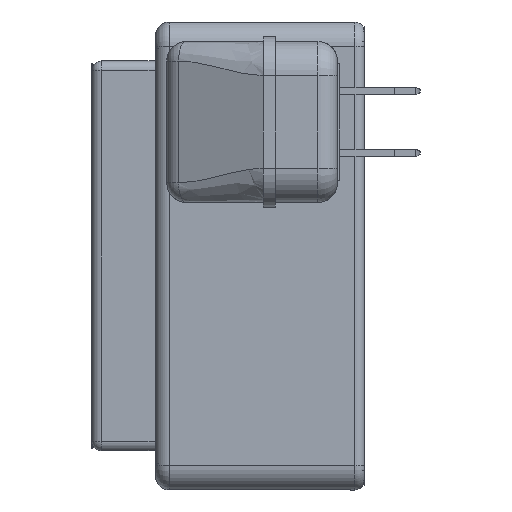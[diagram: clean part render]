
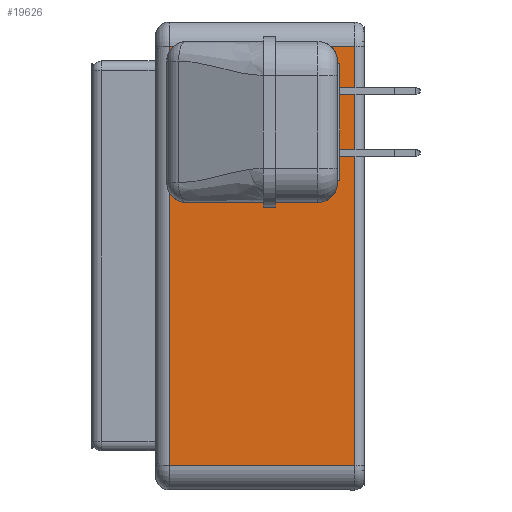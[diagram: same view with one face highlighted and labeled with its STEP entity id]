
A CAD part, left-side view. The second image highlights one B-rep face of the part: STEP entity #19626.
In plain terms, the highlighted planar face has unit normal (-1, 0, 0).
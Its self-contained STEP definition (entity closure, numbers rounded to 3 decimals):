
#112 = CARTESIAN_POINT ( 'NONE',  ( -65., 38., 48. ) ) ;
#296 = DIRECTION ( 'NONE',  ( 0., 0., 1. ) ) ;
#1773 = CARTESIAN_POINT ( 'NONE',  ( -65., 40., 43. ) ) ;
#2159 = LINE ( 'NONE', #23847, #26299 ) ;
#2282 = ORIENTED_EDGE ( 'NONE', *, *, #4924, .T. ) ;
#2842 = CARTESIAN_POINT ( 'NONE',  ( -65., 38., -43. ) ) ;
#4107 = VERTEX_POINT ( 'NONE', #25343 ) ;
#4332 = DIRECTION ( 'NONE',  ( 0., 0., -1. ) ) ;
#4924 = EDGE_CURVE ( 'NONE', #13713, #4107, #2159, .T. ) ;
#5128 = LINE ( 'NONE', #5272, #17042 ) ;
#5272 = CARTESIAN_POINT ( 'NONE',  ( -65., 40., -43. ) ) ;
#5605 = EDGE_CURVE ( 'NONE', #15057, #16565, #7769, .T. ) ;
#5665 = CARTESIAN_POINT ( 'NONE',  ( -65., 0., -43. ) ) ;
#6547 = EDGE_CURVE ( 'NONE', #16565, #15057, #16144, .T. ) ;
#7598 = VECTOR ( 'NONE', #10416, 1000. ) ;
#7769 = CIRCLE ( 'NONE', #11363, 10. ) ;
#7803 = ORIENTED_EDGE ( 'NONE', *, *, #6547, .F. ) ;
#8448 = CARTESIAN_POINT ( 'NONE',  ( -65., 18.5, -27.5 ) ) ;
#8476 = PLANE ( 'NONE',  #9805 ) ;
#9805 = AXIS2_PLACEMENT_3D ( 'NONE', #17103, #21495, #4332 ) ;
#10416 = DIRECTION ( 'NONE',  ( 0., 1., 0. ) ) ;
#10769 = EDGE_CURVE ( 'NONE', #23845, #13713, #5128, .T. ) ;
#11286 = EDGE_CURVE ( 'NONE', #4107, #16366, #21194, .T. ) ;
#11363 = AXIS2_PLACEMENT_3D ( 'NONE', #8448, #17080, #14678 ) ;
#13305 = ORIENTED_EDGE ( 'NONE', *, *, #11286, .T. ) ;
#13713 = VERTEX_POINT ( 'NONE', #5665 ) ;
#13739 = CARTESIAN_POINT ( 'NONE',  ( -65., 18.5, -27.5 ) ) ;
#13880 = DIRECTION ( 'NONE',  ( 0., 0., -1. ) ) ;
#14382 = ORIENTED_EDGE ( 'NONE', *, *, #5605, .F. ) ;
#14678 = DIRECTION ( 'NONE',  ( 0., 0., -1. ) ) ;
#14848 = FACE_OUTER_BOUND ( 'NONE', #26637, .T. ) ;
#15057 = VERTEX_POINT ( 'NONE', #15562 ) ;
#15293 = DIRECTION ( 'NONE',  ( 0., 0., -1. ) ) ;
#15562 = CARTESIAN_POINT ( 'NONE',  ( -65., 18.5, -37.5 ) ) ;
#15770 = VECTOR ( 'NONE', #15293, 1000. ) ;
#16144 = CIRCLE ( 'NONE', #22514, 10. ) ;
#16366 = VERTEX_POINT ( 'NONE', #22518 ) ;
#16565 = VERTEX_POINT ( 'NONE', #22189 ) ;
#16694 = DIRECTION ( 'NONE',  ( 0., -1., 0. ) ) ;
#16954 = FACE_BOUND ( 'NONE', #26377, .T. ) ;
#17042 = VECTOR ( 'NONE', #16694, 1000. ) ;
#17080 = DIRECTION ( 'NONE',  ( -1., 0., 0. ) ) ;
#17103 = CARTESIAN_POINT ( 'NONE',  ( -65., 40., 48. ) ) ;
#19551 = LINE ( 'NONE', #112, #15770 ) ;
#19626 = ADVANCED_FACE ( 'NONE', ( #16954, #14848 ), #8476, .F. ) ;
#19984 = DIRECTION ( 'NONE',  ( -1., 0., 0. ) ) ;
#21194 = LINE ( 'NONE', #1773, #7598 ) ;
#21495 = DIRECTION ( 'NONE',  ( 1., 0., 0. ) ) ;
#21613 = EDGE_CURVE ( 'NONE', #16366, #23845, #19551, .T. ) ;
#22189 = CARTESIAN_POINT ( 'NONE',  ( -65., 18.5, -17.5 ) ) ;
#22514 = AXIS2_PLACEMENT_3D ( 'NONE', #13739, #19984, #13880 ) ;
#22518 = CARTESIAN_POINT ( 'NONE',  ( -65., 38., 43. ) ) ;
#23845 = VERTEX_POINT ( 'NONE', #2842 ) ;
#23847 = CARTESIAN_POINT ( 'NONE',  ( -65., 0., 48. ) ) ;
#25343 = CARTESIAN_POINT ( 'NONE',  ( -65., 0., 43. ) ) ;
#25349 = ORIENTED_EDGE ( 'NONE', *, *, #10769, .T. ) ;
#26046 = ORIENTED_EDGE ( 'NONE', *, *, #21613, .T. ) ;
#26299 = VECTOR ( 'NONE', #296, 1000. ) ;
#26377 = EDGE_LOOP ( 'NONE', ( #14382, #7803 ) ) ;
#26637 = EDGE_LOOP ( 'NONE', ( #26046, #25349, #2282, #13305 ) ) ;
